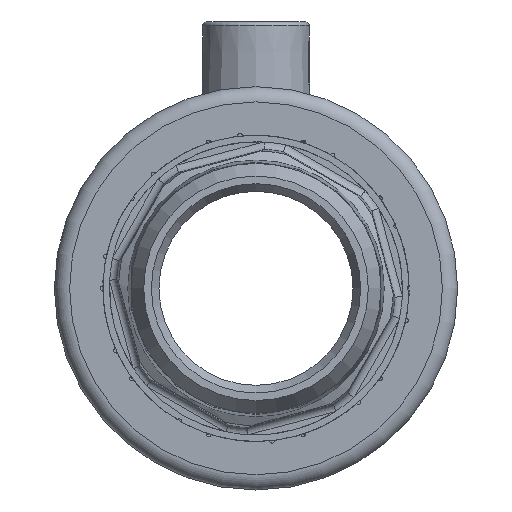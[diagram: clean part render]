
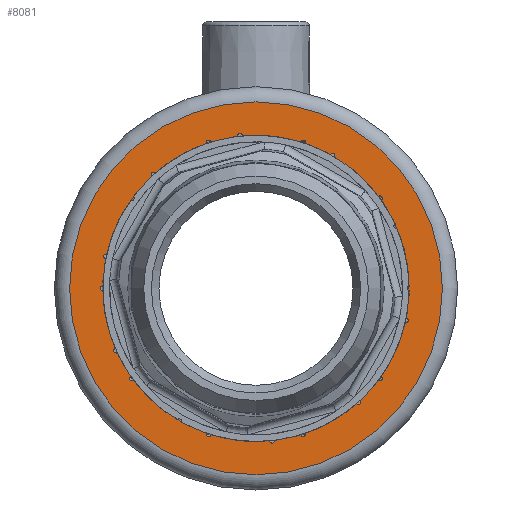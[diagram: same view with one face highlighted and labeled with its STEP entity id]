
A CAD part, left-side view. The second image highlights one B-rep face of the part: STEP entity #8081.
In plain terms, the highlighted planar face has unit normal (-1, 0, 0).
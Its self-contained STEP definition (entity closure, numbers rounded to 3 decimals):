
#727=PLANE('',#10450);
#2722=ORIENTED_EDGE('',*,*,#4717,.T.);
#2723=ORIENTED_EDGE('',*,*,#4436,.F.);
#2724=ORIENTED_EDGE('',*,*,#4317,.T.);
#2725=ORIENTED_EDGE('',*,*,#4225,.F.);
#2726=ORIENTED_EDGE('',*,*,#4265,.F.);
#2727=ORIENTED_EDGE('',*,*,#4229,.F.);
#2728=ORIENTED_EDGE('',*,*,#4236,.F.);
#2729=ORIENTED_EDGE('',*,*,#4266,.F.);
#2730=ORIENTED_EDGE('',*,*,#4302,.F.);
#2731=ORIENTED_EDGE('',*,*,#4533,.F.);
#2732=ORIENTED_EDGE('',*,*,#4487,.F.);
#2733=ORIENTED_EDGE('',*,*,#4501,.F.);
#2734=ORIENTED_EDGE('',*,*,#4565,.F.);
#2735=ORIENTED_EDGE('',*,*,#4535,.F.);
#2736=ORIENTED_EDGE('',*,*,#4543,.T.);
#2737=ORIENTED_EDGE('',*,*,#4340,.F.);
#2738=ORIENTED_EDGE('',*,*,#4483,.T.);
#2739=ORIENTED_EDGE('',*,*,#4434,.F.);
#2740=ORIENTED_EDGE('',*,*,#4383,.F.);
#2741=ORIENTED_EDGE('',*,*,#4401,.F.);
#2742=ORIENTED_EDGE('',*,*,#4381,.T.);
#4225=EDGE_CURVE('',#5482,#5483,#6311,.T.);
#4229=EDGE_CURVE('',#5486,#5487,#6314,.T.);
#4236=EDGE_CURVE('',#5493,#5486,#6318,.T.);
#4265=EDGE_CURVE('',#5487,#5482,#6323,.T.);
#4266=EDGE_CURVE('',#5517,#5493,#6324,.T.);
#4302=EDGE_CURVE('',#5541,#5517,#6328,.T.);
#4317=EDGE_CURVE('',#5543,#5483,#6330,.T.);
#4340=EDGE_CURVE('',#5568,#5569,#6332,.T.);
#4381=EDGE_CURVE('',#5574,#5609,#6353,.T.);
#4383=EDGE_CURVE('',#5611,#5612,#6355,.T.);
#4401=EDGE_CURVE('',#5574,#5611,#6361,.T.);
#4434=EDGE_CURVE('',#5612,#5646,#6364,.T.);
#4436=EDGE_CURVE('',#5543,#5609,#6366,.F.);
#4483=EDGE_CURVE('',#5568,#5646,#6369,.T.);
#4487=EDGE_CURVE('',#5672,#5673,#6371,.T.);
#4501=EDGE_CURVE('',#5686,#5672,#6373,.T.);
#4533=EDGE_CURVE('',#5673,#5541,#6376,.F.);
#4535=EDGE_CURVE('',#5705,#5706,#6377,.T.);
#4543=EDGE_CURVE('',#5705,#5569,#6382,.T.);
#4565=EDGE_CURVE('',#5706,#5686,#6386,.T.);
#4717=EDGE_CURVE('',#5806,#5806,#6414,.T.);
#5482=VERTEX_POINT('',#13311);
#5483=VERTEX_POINT('',#13312);
#5486=VERTEX_POINT('',#13320);
#5487=VERTEX_POINT('',#13321);
#5493=VERTEX_POINT('',#13382);
#5517=VERTEX_POINT('',#13554);
#5541=VERTEX_POINT('',#13688);
#5543=VERTEX_POINT('',#13702);
#5568=VERTEX_POINT('',#13839);
#5569=VERTEX_POINT('',#13840);
#5574=VERTEX_POINT('',#13852);
#5609=VERTEX_POINT('',#13972);
#5611=VERTEX_POINT('',#13977);
#5612=VERTEX_POINT('',#13979);
#5646=VERTEX_POINT('',#14240);
#5672=VERTEX_POINT('',#14783);
#5673=VERTEX_POINT('',#14785);
#5686=VERTEX_POINT('',#14845);
#5705=VERTEX_POINT('',#14950);
#5706=VERTEX_POINT('',#14951);
#5806=VERTEX_POINT('',#15860);
#6311=CIRCLE('',#10123,0.3);
#6314=CIRCLE('',#10128,0.3);
#6318=CIRCLE('',#10134,20.132);
#6323=CIRCLE('',#10147,20.132);
#6324=CIRCLE('',#10149,0.3);
#6328=CIRCLE('',#10169,20.132);
#6330=CIRCLE('',#10176,20.132);
#6332=CIRCLE('',#10189,0.3);
#6353=CIRCLE('',#10214,20.132);
#6355=CIRCLE('',#10217,20.132);
#6361=CIRCLE('',#10226,0.3);
#6364=CIRCLE('',#10251,0.3);
#6366=CIRCLE('',#10254,0.3);
#6369=CIRCLE('',#10283,20.132);
#6371=CIRCLE('',#10288,20.132);
#6373=CIRCLE('',#10293,0.3);
#6376=CIRCLE('',#10319,0.3);
#6377=CIRCLE('',#10322,0.3);
#6382=CIRCLE('',#10331,20.132);
#6386=CIRCLE('',#10342,20.132);
#6414=CIRCLE('',#10451,24.5);
#6886=EDGE_LOOP('',(#2722));
#6887=EDGE_LOOP('',(#2723,#2724,#2725,#2726,#2727,#2728,#2729,#2730,#2731,
#2732,#2733,#2734,#2735,#2736,#2737,#2738,#2739,#2740,#2741,#2742));
#7470=FACE_BOUND('',#6886,.T.);
#7471=FACE_BOUND('',#6887,.T.);
#8081=ADVANCED_FACE('',(#7470,#7471),#727,.T.);
#10123=AXIS2_PLACEMENT_3D('',#13310,#11189,#11190);
#10128=AXIS2_PLACEMENT_3D('',#13319,#11199,#11200);
#10134=AXIS2_PLACEMENT_3D('',#13383,#11211,#11212);
#10147=AXIS2_PLACEMENT_3D('',#13551,#11241,#11242);
#10149=AXIS2_PLACEMENT_3D('',#13553,#11245,#11246);
#10169=AXIS2_PLACEMENT_3D('',#13689,#11294,#11295);
#10176=AXIS2_PLACEMENT_3D('',#13751,#11310,#11311);
#10189=AXIS2_PLACEMENT_3D('',#13838,#11343,#11344);
#10214=AXIS2_PLACEMENT_3D('',#13973,#11395,#11396);
#10217=AXIS2_PLACEMENT_3D('',#13978,#11401,#11402);
#10226=AXIS2_PLACEMENT_3D('',#14042,#11421,#11422);
#10251=AXIS2_PLACEMENT_3D('',#14239,#11478,#11479);
#10254=AXIS2_PLACEMENT_3D('',#14243,#11484,#11485);
#10283=AXIS2_PLACEMENT_3D('',#14772,#11549,#11550);
#10288=AXIS2_PLACEMENT_3D('',#14784,#11559,#11560);
#10293=AXIS2_PLACEMENT_3D('',#14844,#11571,#11572);
#10319=AXIS2_PLACEMENT_3D('',#14946,#11630,#11631);
#10322=AXIS2_PLACEMENT_3D('',#14949,#11636,#11637);
#10331=AXIS2_PLACEMENT_3D('',#14966,#11654,#11655);
#10342=AXIS2_PLACEMENT_3D('',#15044,#11680,#11681);
#10450=AXIS2_PLACEMENT_3D('',#15858,#11923,#11924);
#10451=AXIS2_PLACEMENT_3D('',#15859,#11925,#11926);
#11189=DIRECTION('',(-1.,0.,0.));
#11190=DIRECTION('',(0.,0.,1.));
#11199=DIRECTION('',(-1.,0.,0.));
#11200=DIRECTION('',(0.,0.,1.));
#11211=DIRECTION('',(-1.,0.,0.));
#11212=DIRECTION('',(0.,0.,1.));
#11241=DIRECTION('',(-1.,0.,0.));
#11242=DIRECTION('',(0.,0.,1.));
#11245=DIRECTION('',(-1.,0.,0.));
#11246=DIRECTION('',(0.,0.,1.));
#11294=DIRECTION('',(-1.,0.,0.));
#11295=DIRECTION('',(0.,0.,1.));
#11310=DIRECTION('',(1.,0.,0.));
#11311=DIRECTION('',(0.,0.,-1.));
#11343=DIRECTION('',(-1.,0.,0.));
#11344=DIRECTION('',(0.,0.,1.));
#11395=DIRECTION('',(1.,0.,0.));
#11396=DIRECTION('',(0.,0.,-1.));
#11401=DIRECTION('',(-1.,0.,0.));
#11402=DIRECTION('',(0.,0.,1.));
#11421=DIRECTION('',(-1.,0.,0.));
#11422=DIRECTION('',(0.,0.,1.));
#11478=DIRECTION('',(-1.,0.,0.));
#11479=DIRECTION('',(0.,0.,1.));
#11484=DIRECTION('',(-1.,0.,0.));
#11485=DIRECTION('',(0.,0.,1.));
#11549=DIRECTION('',(1.,0.,0.));
#11550=DIRECTION('',(0.,0.,-1.));
#11559=DIRECTION('',(-1.,0.,0.));
#11560=DIRECTION('',(0.,0.,1.));
#11571=DIRECTION('',(-1.,0.,0.));
#11572=DIRECTION('',(0.,0.,1.));
#11630=DIRECTION('',(-1.,0.,0.));
#11631=DIRECTION('',(0.,0.,1.));
#11636=DIRECTION('',(-1.,0.,0.));
#11637=DIRECTION('',(0.,0.,1.));
#11654=DIRECTION('',(1.,0.,0.));
#11655=DIRECTION('',(0.,0.,-1.));
#11680=DIRECTION('',(-1.,0.,0.));
#11681=DIRECTION('',(0.,0.,1.));
#11923=DIRECTION('',(-1.,0.,0.));
#11924=DIRECTION('',(0.,0.,1.));
#11925=DIRECTION('',(-1.,0.,0.));
#11926=DIRECTION('',(0.,0.,1.));
#13310=CARTESIAN_POINT('',(0.,6.23,19.173));
#13311=CARTESIAN_POINT('',(0.,5.937,19.237));
#13312=CARTESIAN_POINT('',(0.,6.504,19.052));
#13319=CARTESIAN_POINT('',(0.,-6.23,19.173));
#13320=CARTESIAN_POINT('',(0.,-6.504,19.052));
#13321=CARTESIAN_POINT('',(0.,-5.937,19.237));
#13382=CARTESIAN_POINT('',(0.,-16.11,12.074));
#13383=CARTESIAN_POINT('',(0.,0.,0.));
#13551=CARTESIAN_POINT('',(0.,0.,0.));
#13553=CARTESIAN_POINT('',(0.,-16.31,11.85));
#13554=CARTESIAN_POINT('',(0.,-16.461,11.591));
#13688=CARTESIAN_POINT('',(0.,-20.13,0.299));
#13689=CARTESIAN_POINT('',(0.,0.,0.));
#13702=CARTESIAN_POINT('',(0.,16.11,12.074));
#13751=CARTESIAN_POINT('',(0.,0.,0.));
#13838=CARTESIAN_POINT('',(0.,6.23,-19.173));
#13839=CARTESIAN_POINT('',(0.,6.504,-19.052));
#13840=CARTESIAN_POINT('',(0.,5.937,-19.237));
#13852=CARTESIAN_POINT('',(0.,20.13,0.299));
#13972=CARTESIAN_POINT('',(0.,16.461,11.591));
#13973=CARTESIAN_POINT('',(0.,0.,0.));
#13977=CARTESIAN_POINT('',(0.,20.13,-0.299));
#13978=CARTESIAN_POINT('',(0.,0.,0.));
#13979=CARTESIAN_POINT('',(0.,16.461,-11.591));
#14042=CARTESIAN_POINT('',(0.,20.16,0.));
#14239=CARTESIAN_POINT('',(0.,16.31,-11.85));
#14240=CARTESIAN_POINT('',(0.,16.11,-12.074));
#14243=CARTESIAN_POINT('',(0.,16.31,11.85));
#14772=CARTESIAN_POINT('',(0.,0.,0.));
#14783=CARTESIAN_POINT('',(0.,-16.461,-11.591));
#14784=CARTESIAN_POINT('',(0.,0.,0.));
#14785=CARTESIAN_POINT('',(0.,-20.13,-0.299));
#14844=CARTESIAN_POINT('',(0.,-16.31,-11.85));
#14845=CARTESIAN_POINT('',(0.,-16.11,-12.074));
#14946=CARTESIAN_POINT('',(0.,-20.16,0.));
#14949=CARTESIAN_POINT('',(0.,-6.23,-19.173));
#14950=CARTESIAN_POINT('',(0.,-5.937,-19.237));
#14951=CARTESIAN_POINT('',(0.,-6.504,-19.052));
#14966=CARTESIAN_POINT('',(0.,0.,0.));
#15044=CARTESIAN_POINT('',(0.,0.,0.));
#15858=CARTESIAN_POINT('',(0.,0.,18.));
#15859=CARTESIAN_POINT('',(0.,0.,0.));
#15860=CARTESIAN_POINT('',(0.,0.,24.5));
